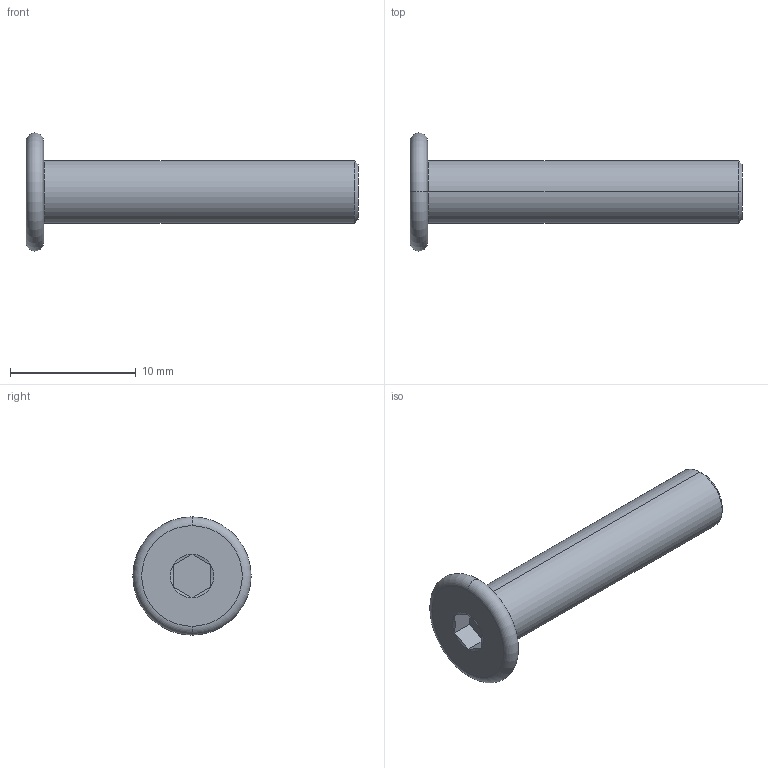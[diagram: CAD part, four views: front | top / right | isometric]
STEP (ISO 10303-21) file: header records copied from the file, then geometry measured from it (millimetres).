
FILE_DESCRIPTION (( 'STEP AP203' ), '1' );
FILE_NAME ('LGD-304M-M5x25.STEP', '2026-08-13T10:43:51', ( '' ), ( '' ), 'SwSTEP 2.0', 'SolidWorks 2020', '' );
FILE_SCHEMA (( 'CONFIG_CONTROL_DESIGN' ));
Length unit declared in the file: millimetre
Products named in the file (1): LGD-304M-M5x25
Bounding box: 26.4 x 9.4 x 9.4 mm (x, y, z)
Volume: 568.1 mm3; surface area: 568.4 mm2
Topology: 1 solids, 1 shells, 24 faces, 44 edges, 24 vertices
Faces by surface type: plane 10, cone 8, torus 4, cylinder 2
Entity records: 673 total; most frequent: CARTESIAN_POINT 119, DIRECTION 110, ORIENTED_EDGE 88, AXIS2_PLACEMENT_3D 47, EDGE_CURVE 44, EDGE_LOOP 26, VERTEX_POINT 24, ADVANCED_FACE 24
